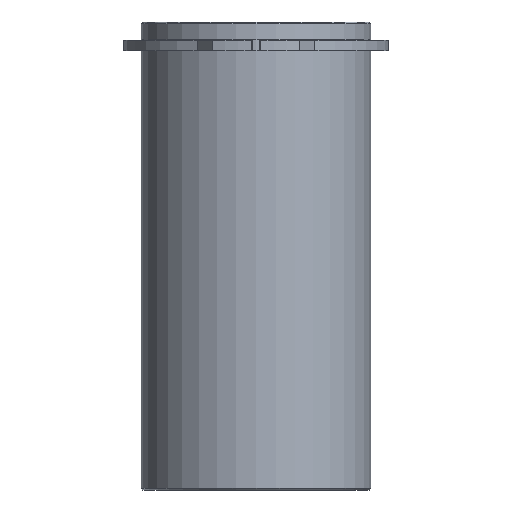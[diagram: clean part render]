
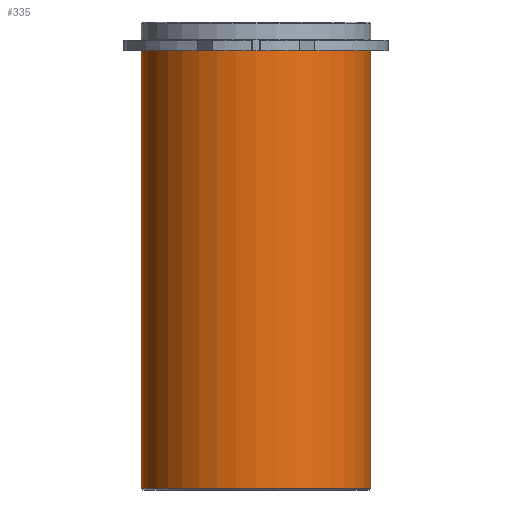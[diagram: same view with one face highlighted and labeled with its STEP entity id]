
A CAD part, front view. The second image highlights one B-rep face of the part: STEP entity #335.
In plain terms, the highlighted cylindrical face has radius 19.625 mm (diameter 39.25 mm), a partial arc.
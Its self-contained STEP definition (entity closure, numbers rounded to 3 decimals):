
#294=CARTESIAN_POINT('',(0.0,0.,-37.4));
#295=DIRECTION('',(0.0,0.,1.0));
#296=DIRECTION('',(1.0,0.0,0.0));
#297=AXIS2_PLACEMENT_3D('',#294,#295,#296);
#298=CYLINDRICAL_SURFACE('',#297,19.625);
#299=CARTESIAN_POINT('',(19.625,0.0,0.0));
#300=VERTEX_POINT('',#299);
#301=CARTESIAN_POINT('',(19.625,0.,-74.8));
#302=VERTEX_POINT('',#301);
#303=CARTESIAN_POINT('',(19.625,0.0,0.0));
#304=DIRECTION('',(0.0,0.0,-1.0));
#305=VECTOR('',#304,74.8);
#306=LINE('',#303,#305);
#307=EDGE_CURVE('',#300,#302,#306,.T.);
#308=ORIENTED_EDGE('',*,*,#307,.F.);
#309=CARTESIAN_POINT('',(-19.625,0.,0.0));
#310=VERTEX_POINT('',#309);
#311=CARTESIAN_POINT('',(0.0,0.0,0.0));
#312=DIRECTION('',(0.0,0.0,1.0));
#313=DIRECTION('',(1.0,0.0,0.0));
#314=AXIS2_PLACEMENT_3D('',#311,#312,#313);
#315=CIRCLE('',#314,19.625);
#316=EDGE_CURVE('',#310,#300,#315,.T.);
#317=ORIENTED_EDGE('',*,*,#316,.F.);
#318=CARTESIAN_POINT('',(-19.625,0.,-74.8));
#319=VERTEX_POINT('',#318);
#320=CARTESIAN_POINT('',(-19.625,0.,0.0));
#321=DIRECTION('',(0.0,0.0,-1.0));
#322=VECTOR('',#321,74.8);
#323=LINE('',#320,#322);
#324=EDGE_CURVE('',#310,#319,#323,.T.);
#325=ORIENTED_EDGE('',*,*,#324,.T.);
#326=CARTESIAN_POINT('',(0.0,0.,-74.8));
#327=DIRECTION('',(0.0,0.0,1.0));
#328=DIRECTION('',(1.0,0.0,0.0));
#329=AXIS2_PLACEMENT_3D('',#326,#327,#328);
#330=CIRCLE('',#329,19.625);
#331=EDGE_CURVE('',#319,#302,#330,.T.);
#332=ORIENTED_EDGE('',*,*,#331,.T.);
#333=EDGE_LOOP('',(#308,#317,#325,#332));
#334=FACE_OUTER_BOUND('',#333,.T.);
#335=ADVANCED_FACE('',(#334),#298,.T.);
